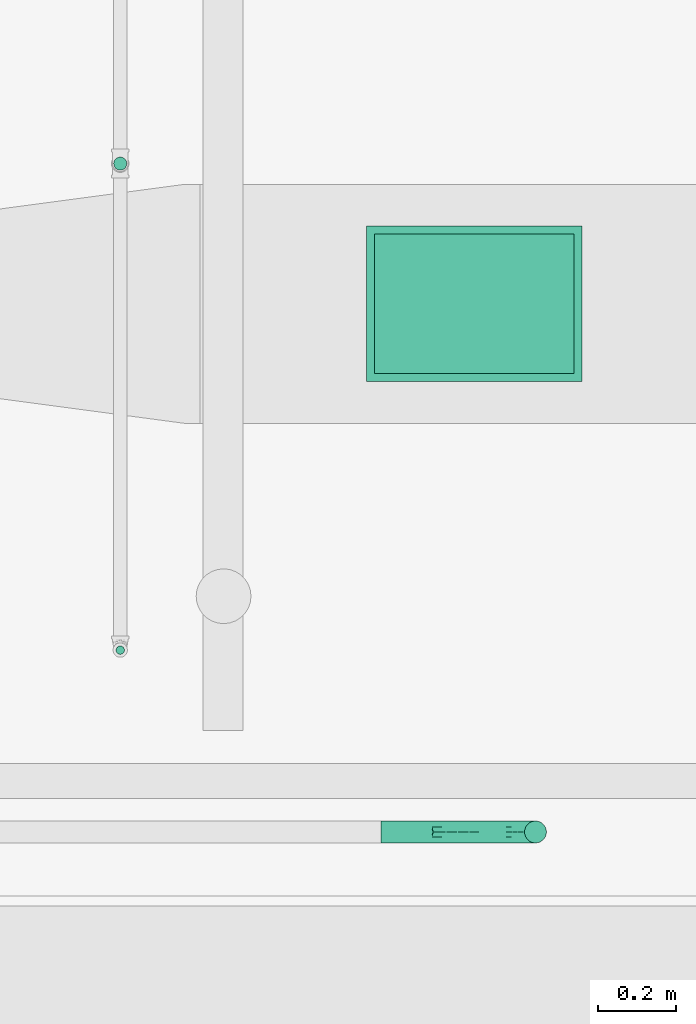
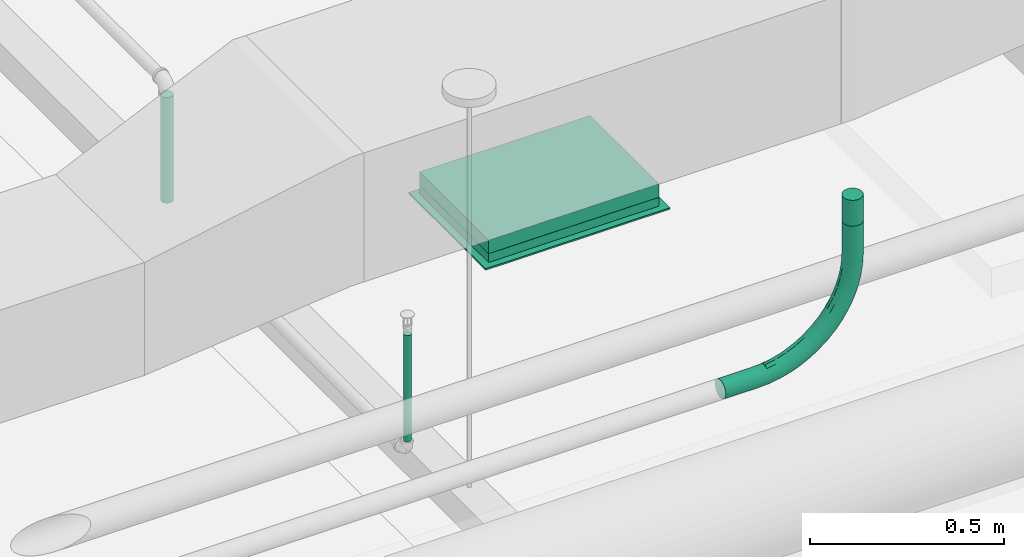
# One storey, part 41 of 108: 2 pipe segments, 1 air terminal, 1 cable carrier fitting, 1 cable carrier segment, 1 duct segment.
"""IFC4 building model written with IfcOpenShell, lengths in feet."""

from ifc_helpers import new_model, entity, si_unit, converted_unit, derived_unit, direction, frame, frame_2d, origin, origin_2d_with_axis, place, context, subcontext, project, spatial, rectangle, circle, extrude, source, transform, mapped, type_object, type_shapes, element, save


model = new_model("IFC4")

# Units and contexts
model_context = context("Model", 3, precision=0.0001, world=origin(), true_north=direction((6.12303176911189e-17, 1.0)))
body_context = subcontext(model_context, "Body", "Model", "MODEL_VIEW")
ifc_project = project(units=[converted_unit("LENGTHUNIT", "FOOT", entity("IfcRatioMeasure", 0.3048), si_unit("LENGTHUNIT", "METRE"), dimensions=[1, 0, 0, 0, 0, 0, 0]), converted_unit("AREAUNIT", "SQUARE FOOT", entity("IfcRatioMeasure", 0.09290304), si_unit("AREAUNIT", "SQUARE_METRE"), dimensions=[2, 0, 0, 0, 0, 0, 0]), converted_unit("VOLUMEUNIT", "CUBIC FOOT", entity("IfcRatioMeasure", 0.028316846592), si_unit("VOLUMEUNIT", "CUBIC_METRE"), dimensions=[3, 0, 0, 0, 0, 0, 0]), converted_unit("PLANEANGLEUNIT", "DEGREE", entity("IfcRatioMeasure", 0.0174532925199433), si_unit("PLANEANGLEUNIT", "RADIAN"), dimensions=[0, 0, 0, 0, 0, 0, 0]), si_unit("MASSUNIT", "GRAM", prefix="KILO"), derived_unit("MASSDENSITYUNIT", [(si_unit("MASSUNIT", "GRAM", prefix="KILO"), 1), (si_unit("LENGTHUNIT", "METRE"), -3)]), si_unit("TIMEUNIT", "SECOND"), si_unit("FREQUENCYUNIT", "HERTZ"), si_unit("THERMODYNAMICTEMPERATUREUNIT", "DEGREE_CELSIUS"), derived_unit("THERMALTRANSMITTANCEUNIT", [(si_unit("MASSUNIT", "GRAM", prefix="KILO"), 1), (si_unit("THERMODYNAMICTEMPERATUREUNIT", "KELVIN"), -1), (si_unit("TIMEUNIT", "SECOND"), -3)]), derived_unit("VOLUMETRICFLOWRATEUNIT", [(si_unit("LENGTHUNIT", "METRE"), 3), (si_unit("TIMEUNIT", "SECOND"), -1)]), si_unit("ELECTRICCURRENTUNIT", "AMPERE"), si_unit("ELECTRICVOLTAGEUNIT", "VOLT"), si_unit("POWERUNIT", "WATT"), si_unit("FORCEUNIT", "NEWTON"), si_unit("ILLUMINANCEUNIT", "LUX"), si_unit("LUMINOUSFLUXUNIT", "LUMEN"), si_unit("LUMINOUSINTENSITYUNIT", "CANDELA"), derived_unit("USERDEFINED", [(si_unit("MASSUNIT", "GRAM", prefix="KILO"), -1), (si_unit("LENGTHUNIT", "METRE"), -2), (si_unit("TIMEUNIT", "SECOND"), 3), (si_unit("LUMINOUSFLUXUNIT", "LUMEN"), 1)]), derived_unit("LINEARVELOCITYUNIT", [(si_unit("LENGTHUNIT", "METRE"), 1), (si_unit("TIMEUNIT", "SECOND"), -1)]), si_unit("PRESSUREUNIT", "PASCAL"), derived_unit("USERDEFINED", [(si_unit("LENGTHUNIT", "METRE"), -2), (si_unit("MASSUNIT", "GRAM", prefix="KILO"), 1), (si_unit("TIMEUNIT", "SECOND"), -2)])], contexts=[model_context])

# Site, building, storey
site_placement = place(None, origin())
site = spatial("IfcSite", under=ifc_project, at=site_placement, Name="Default", CompositionType="ELEMENT")
building_placement = place(site_placement, origin())
building = spatial("IfcBuilding", under=site, at=building_placement, CompositionType="ELEMENT")
storey_placement = place(building_placement, frame((0.0, 0.0, 168.0)))
storey = spatial("IfcBuildingStorey", under=building, at=storey_placement, Name="Level 15", CompositionType="ELEMENT", Elevation=168.0)

# Duct segment
duct_segment_type = type_object("IfcDuctSegmentType", Name="Rectangular Duct:Square Throat Elbows / S&D", PredefinedType="NOTDEFINED")
duct_segment_placement = place(storey_placement, frame((-23.6327399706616, -11.7654409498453, 8.75781249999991)))
element("IfcDuctSegment", 1, at=duct_segment_placement, inside=storey, type_object=duct_segment_type, Name="Rectangular Duct:Square Throat Elbows / S&D", ObjectType="Rectangular Duct:Square Throat Elbows / S&D", PredefinedType="NOTDEFINED", context=body_context, shape_type="SweptSolid", body=[
    extrude(rectangle(XDim=1.66666666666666, YDim=1.16666666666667, at=frame_2d((-1.77635683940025e-15, -8.88178419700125e-16), x_axis=(1.0, 0.0))), frame((0.833333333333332, 0.583333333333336, 0.0), z_axis=(0.0, 0.0, 1.0), x_axis=(-1.0, 0.0, 0.0)), (0.0, 0.0, 1.0), 0.138020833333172),
])

# Air terminal
air_terminal_type = type_object("IfcAirTerminalType", Name="20x14", PredefinedType="NOTDEFINED")
cartesian_point_1 = entity("IfcCartesianPoint", [0.901041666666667, -0.015625, 0.651041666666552])
vertex_point_1 = entity("IfcVertexPoint", cartesian_point_1)
cartesian_point_2 = entity("IfcCartesianPoint", [-0.901041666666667, -0.015625, 0.651041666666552])
vertex_point_2 = entity("IfcVertexPoint", cartesian_point_2)
ifc_direction_1 = entity("IfcDirection", [-1.0, 0.0, 0.0])
edge_curve_1 = entity("IfcEdgeCurve", vertex_point_1, vertex_point_2, entity("IfcTrimmedCurve", entity("IfcLine", cartesian_point_1, entity("IfcVector", ifc_direction_1, 1.0)), [cartesian_point_1], [cartesian_point_2], True, "CARTESIAN"), True)
cartesian_point_3 = entity("IfcCartesianPoint", [-0.901041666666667, -0.015625, -0.651041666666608])
vertex_point_3 = entity("IfcVertexPoint", cartesian_point_3)
ifc_direction_2 = entity("IfcDirection", [0.0, 0.0, -1.0])
edge_curve_2 = entity("IfcEdgeCurve", vertex_point_2, vertex_point_3, entity("IfcTrimmedCurve", entity("IfcLine", cartesian_point_2, entity("IfcVector", ifc_direction_2, 1.0)), [cartesian_point_2], [cartesian_point_3], True, "CARTESIAN"), True)
cartesian_point_4 = entity("IfcCartesianPoint", [0.901041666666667, -0.015625, -0.651041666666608])
vertex_point_4 = entity("IfcVertexPoint", cartesian_point_4)
ifc_direction_3 = entity("IfcDirection", [1.0, 0.0, 0.0])
edge_curve_3 = entity("IfcEdgeCurve", vertex_point_3, vertex_point_4, entity("IfcTrimmedCurve", entity("IfcLine", cartesian_point_3, entity("IfcVector", ifc_direction_3, 1.0)), [cartesian_point_3], [cartesian_point_4], True, "CARTESIAN"), True)
ifc_direction_4 = entity("IfcDirection", [0.0, 0.0, 1.0])
edge_curve_4 = entity("IfcEdgeCurve", vertex_point_4, vertex_point_1, entity("IfcTrimmedCurve", entity("IfcLine", cartesian_point_4, entity("IfcVector", ifc_direction_4, 1.0)), [cartesian_point_4], [cartesian_point_1], True, "CARTESIAN"), True)
ifc_direction_5 = entity("IfcDirection", [0.0, -1.0, 0.0])
cartesian_point_5 = entity("IfcCartesianPoint", [0.901041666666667, 0.0, 0.651041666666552])
vertex_point_5 = entity("IfcVertexPoint", cartesian_point_5)
cartesian_point_6 = entity("IfcCartesianPoint", [0.901041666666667, 0.0, -0.651041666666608])
vertex_point_6 = entity("IfcVertexPoint", cartesian_point_6)
edge_curve_5 = entity("IfcEdgeCurve", vertex_point_5, vertex_point_6, entity("IfcTrimmedCurve", entity("IfcLine", cartesian_point_5, entity("IfcVector", ifc_direction_2, 1.0)), [cartesian_point_5], [cartesian_point_6], True, "CARTESIAN"), True)
cartesian_point_7 = entity("IfcCartesianPoint", [-0.901041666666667, 0.0, -0.651041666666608])
vertex_point_7 = entity("IfcVertexPoint", cartesian_point_7)
edge_curve_6 = entity("IfcEdgeCurve", vertex_point_6, vertex_point_7, entity("IfcTrimmedCurve", entity("IfcLine", cartesian_point_6, entity("IfcVector", ifc_direction_1, 1.0)), [cartesian_point_6], [cartesian_point_7], True, "CARTESIAN"), True)
cartesian_point_8 = entity("IfcCartesianPoint", [-0.901041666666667, 0.0, 0.651041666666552])
vertex_point_8 = entity("IfcVertexPoint", cartesian_point_8)
edge_curve_7 = entity("IfcEdgeCurve", vertex_point_7, vertex_point_8, entity("IfcTrimmedCurve", entity("IfcLine", cartesian_point_7, entity("IfcVector", ifc_direction_4, 1.0)), [cartesian_point_7], [cartesian_point_8], True, "CARTESIAN"), True)
edge_curve_8 = entity("IfcEdgeCurve", vertex_point_8, vertex_point_5, entity("IfcTrimmedCurve", entity("IfcLine", cartesian_point_8, entity("IfcVector", ifc_direction_3, 1.0)), [cartesian_point_8], [cartesian_point_5], True, "CARTESIAN"), True)
cartesian_point_9 = entity("IfcCartesianPoint", [-0.833333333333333, 0.0, 0.583333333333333])
vertex_point_9 = entity("IfcVertexPoint", cartesian_point_9)
cartesian_point_10 = entity("IfcCartesianPoint", [-0.833333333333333, 0.0, -0.583333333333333])
vertex_point_10 = entity("IfcVertexPoint", cartesian_point_10)
edge_curve_9 = entity("IfcEdgeCurve", vertex_point_9, vertex_point_10, entity("IfcTrimmedCurve", entity("IfcLine", cartesian_point_9, entity("IfcVector", ifc_direction_2, 1.0)), [cartesian_point_9], [cartesian_point_10], True, "CARTESIAN"), True)
cartesian_point_11 = entity("IfcCartesianPoint", [0.833333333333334, 0.0, -0.583333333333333])
vertex_point_11 = entity("IfcVertexPoint", cartesian_point_11)
edge_curve_10 = entity("IfcEdgeCurve", vertex_point_10, vertex_point_11, entity("IfcTrimmedCurve", entity("IfcLine", cartesian_point_10, entity("IfcVector", ifc_direction_3, 1.0)), [cartesian_point_10], [cartesian_point_11], True, "CARTESIAN"), True)
cartesian_point_12 = entity("IfcCartesianPoint", [0.833333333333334, 0.0, 0.583333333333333])
vertex_point_12 = entity("IfcVertexPoint", cartesian_point_12)
edge_curve_11 = entity("IfcEdgeCurve", vertex_point_11, vertex_point_12, entity("IfcTrimmedCurve", entity("IfcLine", cartesian_point_11, entity("IfcVector", ifc_direction_4, 1.0)), [cartesian_point_11], [cartesian_point_12], True, "CARTESIAN"), True)
edge_curve_12 = entity("IfcEdgeCurve", vertex_point_12, vertex_point_9, entity("IfcTrimmedCurve", entity("IfcLine", cartesian_point_12, entity("IfcVector", ifc_direction_1, 1.0)), [cartesian_point_12], [cartesian_point_9], True, "CARTESIAN"), True)
ifc_direction_6 = entity("IfcDirection", [0.0, 1.0, 0.0])
edge_curve_13 = entity("IfcEdgeCurve", vertex_point_1, vertex_point_5, entity("IfcTrimmedCurve", entity("IfcLine", cartesian_point_1, entity("IfcVector", ifc_direction_6, 1.0)), [cartesian_point_1], [cartesian_point_5], True, "CARTESIAN"), True)
edge_curve_14 = entity("IfcEdgeCurve", vertex_point_8, vertex_point_2, entity("IfcTrimmedCurve", entity("IfcLine", cartesian_point_2, entity("IfcVector", ifc_direction_5, 1.0)), [cartesian_point_8], [cartesian_point_2], True, "CARTESIAN"), True)
edge_curve_15 = entity("IfcEdgeCurve", vertex_point_7, vertex_point_3, entity("IfcTrimmedCurve", entity("IfcLine", cartesian_point_3, entity("IfcVector", ifc_direction_5, 1.0)), [cartesian_point_7], [cartesian_point_3], True, "CARTESIAN"), True)
edge_curve_16 = entity("IfcEdgeCurve", vertex_point_6, vertex_point_4, entity("IfcTrimmedCurve", entity("IfcLine", cartesian_point_4, entity("IfcVector", ifc_direction_5, 1.0)), [cartesian_point_6], [cartesian_point_4], True, "CARTESIAN"), True)
cartesian_point_13 = entity("IfcCartesianPoint", [-0.833333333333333, 0.08984375, 0.583333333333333])
vertex_point_13 = entity("IfcVertexPoint", cartesian_point_13)
cartesian_point_14 = entity("IfcCartesianPoint", [0.833333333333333, 0.08984375, 0.583333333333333])
vertex_point_14 = entity("IfcVertexPoint", cartesian_point_14)
edge_curve_17 = entity("IfcEdgeCurve", vertex_point_13, vertex_point_14, entity("IfcTrimmedCurve", entity("IfcLine", cartesian_point_13, entity("IfcVector", ifc_direction_3, 1.0)), [cartesian_point_13], [cartesian_point_14], True, "CARTESIAN"), True)
cartesian_point_15 = entity("IfcCartesianPoint", [0.833333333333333, 0.08984375, -0.583333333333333])
vertex_point_15 = entity("IfcVertexPoint", cartesian_point_15)
edge_curve_18 = entity("IfcEdgeCurve", vertex_point_14, vertex_point_15, entity("IfcTrimmedCurve", entity("IfcLine", cartesian_point_14, entity("IfcVector", ifc_direction_2, 1.0)), [cartesian_point_14], [cartesian_point_15], True, "CARTESIAN"), True)
cartesian_point_16 = entity("IfcCartesianPoint", [-0.833333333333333, 0.08984375, -0.583333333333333])
vertex_point_16 = entity("IfcVertexPoint", cartesian_point_16)
edge_curve_19 = entity("IfcEdgeCurve", vertex_point_15, vertex_point_16, entity("IfcTrimmedCurve", entity("IfcLine", cartesian_point_15, entity("IfcVector", ifc_direction_1, 1.0)), [cartesian_point_15], [cartesian_point_16], True, "CARTESIAN"), True)
edge_curve_20 = entity("IfcEdgeCurve", vertex_point_16, vertex_point_13, entity("IfcTrimmedCurve", entity("IfcLine", cartesian_point_16, entity("IfcVector", ifc_direction_4, 1.0)), [cartesian_point_16], [cartesian_point_13], True, "CARTESIAN"), True)
cartesian_point_17 = entity("IfcCartesianPoint", [-0.8125, 0.08984375, 0.562500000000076])
vertex_point_17 = entity("IfcVertexPoint", cartesian_point_17)
cartesian_point_18 = entity("IfcCartesianPoint", [-0.8125, 0.08984375, -0.562500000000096])
vertex_point_18 = entity("IfcVertexPoint", cartesian_point_18)
edge_curve_21 = entity("IfcEdgeCurve", vertex_point_17, vertex_point_18, entity("IfcTrimmedCurve", entity("IfcLine", cartesian_point_17, entity("IfcVector", ifc_direction_2, 1.0)), [cartesian_point_17], [cartesian_point_18], True, "CARTESIAN"), True)
cartesian_point_19 = entity("IfcCartesianPoint", [0.8125, 0.08984375, -0.562500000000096])
vertex_point_19 = entity("IfcVertexPoint", cartesian_point_19)
edge_curve_22 = entity("IfcEdgeCurve", vertex_point_18, vertex_point_19, entity("IfcTrimmedCurve", entity("IfcLine", cartesian_point_18, entity("IfcVector", ifc_direction_3, 1.0)), [cartesian_point_18], [cartesian_point_19], True, "CARTESIAN"), True)
cartesian_point_20 = entity("IfcCartesianPoint", [0.8125, 0.08984375, 0.562500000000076])
vertex_point_20 = entity("IfcVertexPoint", cartesian_point_20)
edge_curve_23 = entity("IfcEdgeCurve", vertex_point_19, vertex_point_20, entity("IfcTrimmedCurve", entity("IfcLine", cartesian_point_19, entity("IfcVector", ifc_direction_4, 1.0)), [cartesian_point_19], [cartesian_point_20], True, "CARTESIAN"), True)
edge_curve_24 = entity("IfcEdgeCurve", vertex_point_20, vertex_point_17, entity("IfcTrimmedCurve", entity("IfcLine", cartesian_point_20, entity("IfcVector", ifc_direction_1, 1.0)), [cartesian_point_20], [cartesian_point_17], True, "CARTESIAN"), True)
edge_curve_25 = entity("IfcEdgeCurve", vertex_point_16, vertex_point_10, entity("IfcTrimmedCurve", entity("IfcLine", cartesian_point_10, entity("IfcVector", ifc_direction_5, 1.0)), [cartesian_point_16], [cartesian_point_10], True, "CARTESIAN"), True)
edge_curve_26 = entity("IfcEdgeCurve", vertex_point_9, vertex_point_13, entity("IfcTrimmedCurve", entity("IfcLine", cartesian_point_9, entity("IfcVector", ifc_direction_6, 1.0)), [cartesian_point_9], [cartesian_point_13], True, "CARTESIAN"), True)
edge_curve_27 = entity("IfcEdgeCurve", vertex_point_15, vertex_point_11, entity("IfcTrimmedCurve", entity("IfcLine", cartesian_point_11, entity("IfcVector", ifc_direction_5, 1.0)), [cartesian_point_15], [cartesian_point_11], True, "CARTESIAN"), True)
edge_curve_28 = entity("IfcEdgeCurve", vertex_point_14, vertex_point_12, entity("IfcTrimmedCurve", entity("IfcLine", cartesian_point_12, entity("IfcVector", ifc_direction_5, 1.0)), [cartesian_point_14], [cartesian_point_12], True, "CARTESIAN"), True)
cartesian_point_21 = entity("IfcCartesianPoint", [-0.8125, 0.0911458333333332, 0.562500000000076])
vertex_point_21 = entity("IfcVertexPoint", cartesian_point_21)
cartesian_point_22 = entity("IfcCartesianPoint", [0.8125, 0.0911458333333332, 0.562500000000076])
vertex_point_22 = entity("IfcVertexPoint", cartesian_point_22)
edge_curve_29 = entity("IfcEdgeCurve", vertex_point_21, vertex_point_22, entity("IfcTrimmedCurve", entity("IfcLine", cartesian_point_21, entity("IfcVector", ifc_direction_3, 1.0)), [cartesian_point_21], [cartesian_point_22], True, "CARTESIAN"), True)
cartesian_point_23 = entity("IfcCartesianPoint", [0.8125, 0.0911458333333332, -0.562500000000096])
vertex_point_23 = entity("IfcVertexPoint", cartesian_point_23)
edge_curve_30 = entity("IfcEdgeCurve", vertex_point_22, vertex_point_23, entity("IfcTrimmedCurve", entity("IfcLine", cartesian_point_22, entity("IfcVector", ifc_direction_2, 1.0)), [cartesian_point_22], [cartesian_point_23], True, "CARTESIAN"), True)
cartesian_point_24 = entity("IfcCartesianPoint", [-0.8125, 0.0911458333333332, -0.562500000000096])
vertex_point_24 = entity("IfcVertexPoint", cartesian_point_24)
edge_curve_31 = entity("IfcEdgeCurve", vertex_point_23, vertex_point_24, entity("IfcTrimmedCurve", entity("IfcLine", cartesian_point_23, entity("IfcVector", ifc_direction_1, 1.0)), [cartesian_point_23], [cartesian_point_24], True, "CARTESIAN"), True)
edge_curve_32 = entity("IfcEdgeCurve", vertex_point_24, vertex_point_21, entity("IfcTrimmedCurve", entity("IfcLine", cartesian_point_24, entity("IfcVector", ifc_direction_4, 1.0)), [cartesian_point_24], [cartesian_point_21], True, "CARTESIAN"), True)
edge_curve_33 = entity("IfcEdgeCurve", vertex_point_24, vertex_point_18, entity("IfcTrimmedCurve", entity("IfcLine", cartesian_point_18, entity("IfcVector", ifc_direction_5, 1.0)), [cartesian_point_24], [cartesian_point_18], True, "CARTESIAN"), True)
edge_curve_34 = entity("IfcEdgeCurve", vertex_point_17, vertex_point_21, entity("IfcTrimmedCurve", entity("IfcLine", cartesian_point_17, entity("IfcVector", ifc_direction_6, 1.0)), [cartesian_point_17], [cartesian_point_21], True, "CARTESIAN"), True)
edge_curve_35 = entity("IfcEdgeCurve", vertex_point_23, vertex_point_19, entity("IfcTrimmedCurve", entity("IfcLine", cartesian_point_19, entity("IfcVector", ifc_direction_5, 1.0)), [cartesian_point_23], [cartesian_point_19], True, "CARTESIAN"), True)
edge_curve_36 = entity("IfcEdgeCurve", vertex_point_22, vertex_point_20, entity("IfcTrimmedCurve", entity("IfcLine", cartesian_point_20, entity("IfcVector", ifc_direction_5, 1.0)), [cartesian_point_22], [cartesian_point_20], True, "CARTESIAN"), True)
shared_shape_1 = source(origin(), body_context, "Body", "AdvancedBrep", [
    entity("IfcAdvancedBrep", entity("IfcClosedShell", [entity("IfcAdvancedFace", [entity("IfcFaceOuterBound", entity("IfcEdgeLoop", [entity("IfcOrientedEdge", None, None, edge_curve_1, True), entity("IfcOrientedEdge", None, None, edge_curve_2, True), entity("IfcOrientedEdge", None, None, edge_curve_3, True), entity("IfcOrientedEdge", None, None, edge_curve_4, True)]), True)], entity("IfcPlane", entity("IfcAxis2Placement3D", cartesian_point_2, ifc_direction_5, ifc_direction_1)), True), entity("IfcAdvancedFace", [entity("IfcFaceOuterBound", entity("IfcEdgeLoop", [entity("IfcOrientedEdge", None, None, edge_curve_5, True), entity("IfcOrientedEdge", None, None, edge_curve_6, True), entity("IfcOrientedEdge", None, None, edge_curve_7, True), entity("IfcOrientedEdge", None, None, edge_curve_8, True)]), True), entity("IfcFaceBound", entity("IfcEdgeLoop", [entity("IfcOrientedEdge", None, None, edge_curve_9, True), entity("IfcOrientedEdge", None, None, edge_curve_10, True), entity("IfcOrientedEdge", None, None, edge_curve_11, True), entity("IfcOrientedEdge", None, None, edge_curve_12, True)]), False)], entity("IfcPlane", entity("IfcAxis2Placement3D", cartesian_point_8, ifc_direction_6, ifc_direction_3)), True), entity("IfcAdvancedFace", [entity("IfcFaceOuterBound", entity("IfcEdgeLoop", [entity("IfcOrientedEdge", None, None, edge_curve_1, False), entity("IfcOrientedEdge", None, None, edge_curve_13, True), entity("IfcOrientedEdge", None, None, edge_curve_8, False), entity("IfcOrientedEdge", None, None, edge_curve_14, True)]), True)], entity("IfcPlane", entity("IfcAxis2Placement3D", cartesian_point_1, ifc_direction_4, ifc_direction_6)), True), entity("IfcAdvancedFace", [entity("IfcFaceOuterBound", entity("IfcEdgeLoop", [entity("IfcOrientedEdge", None, None, edge_curve_2, False), entity("IfcOrientedEdge", None, None, edge_curve_14, False), entity("IfcOrientedEdge", None, None, edge_curve_7, False), entity("IfcOrientedEdge", None, None, edge_curve_15, True)]), True)], entity("IfcPlane", entity("IfcAxis2Placement3D", cartesian_point_2, ifc_direction_1, ifc_direction_6)), True), entity("IfcAdvancedFace", [entity("IfcFaceOuterBound", entity("IfcEdgeLoop", [entity("IfcOrientedEdge", None, None, edge_curve_3, False), entity("IfcOrientedEdge", None, None, edge_curve_15, False), entity("IfcOrientedEdge", None, None, edge_curve_6, False), entity("IfcOrientedEdge", None, None, edge_curve_16, True)]), True)], entity("IfcPlane", entity("IfcAxis2Placement3D", cartesian_point_3, ifc_direction_2, ifc_direction_6)), True), entity("IfcAdvancedFace", [entity("IfcFaceOuterBound", entity("IfcEdgeLoop", [entity("IfcOrientedEdge", None, None, edge_curve_4, False), entity("IfcOrientedEdge", None, None, edge_curve_16, False), entity("IfcOrientedEdge", None, None, edge_curve_5, False), entity("IfcOrientedEdge", None, None, edge_curve_13, False)]), True)], entity("IfcPlane", entity("IfcAxis2Placement3D", cartesian_point_4, ifc_direction_3, ifc_direction_6)), True), entity("IfcAdvancedFace", [entity("IfcFaceOuterBound", entity("IfcEdgeLoop", [entity("IfcOrientedEdge", None, None, edge_curve_17, True), entity("IfcOrientedEdge", None, None, edge_curve_18, True), entity("IfcOrientedEdge", None, None, edge_curve_19, True), entity("IfcOrientedEdge", None, None, edge_curve_20, True)]), True), entity("IfcFaceBound", entity("IfcEdgeLoop", [entity("IfcOrientedEdge", None, None, edge_curve_21, True), entity("IfcOrientedEdge", None, None, edge_curve_22, True), entity("IfcOrientedEdge", None, None, edge_curve_23, True), entity("IfcOrientedEdge", None, None, edge_curve_24, True)]), False)], entity("IfcPlane", entity("IfcAxis2Placement3D", cartesian_point_13, ifc_direction_6, ifc_direction_4)), True), entity("IfcAdvancedFace", [entity("IfcFaceOuterBound", entity("IfcEdgeLoop", [entity("IfcOrientedEdge", None, None, edge_curve_20, False), entity("IfcOrientedEdge", None, None, edge_curve_25, True), entity("IfcOrientedEdge", None, None, edge_curve_9, False), entity("IfcOrientedEdge", None, None, edge_curve_26, True)]), True)], entity("IfcPlane", entity("IfcAxis2Placement3D", cartesian_point_9, ifc_direction_1, ifc_direction_6)), True), entity("IfcAdvancedFace", [entity("IfcFaceOuterBound", entity("IfcEdgeLoop", [entity("IfcOrientedEdge", None, None, edge_curve_19, False), entity("IfcOrientedEdge", None, None, edge_curve_27, True), entity("IfcOrientedEdge", None, None, edge_curve_10, False), entity("IfcOrientedEdge", None, None, edge_curve_25, False)]), True)], entity("IfcPlane", entity("IfcAxis2Placement3D", cartesian_point_10, ifc_direction_2, ifc_direction_6)), True), entity("IfcAdvancedFace", [entity("IfcFaceOuterBound", entity("IfcEdgeLoop", [entity("IfcOrientedEdge", None, None, edge_curve_18, False), entity("IfcOrientedEdge", None, None, edge_curve_28, True), entity("IfcOrientedEdge", None, None, edge_curve_11, False), entity("IfcOrientedEdge", None, None, edge_curve_27, False)]), True)], entity("IfcPlane", entity("IfcAxis2Placement3D", cartesian_point_11, ifc_direction_3, ifc_direction_6)), True), entity("IfcAdvancedFace", [entity("IfcFaceOuterBound", entity("IfcEdgeLoop", [entity("IfcOrientedEdge", None, None, edge_curve_17, False), entity("IfcOrientedEdge", None, None, edge_curve_26, False), entity("IfcOrientedEdge", None, None, edge_curve_12, False), entity("IfcOrientedEdge", None, None, edge_curve_28, False)]), True)], entity("IfcPlane", entity("IfcAxis2Placement3D", cartesian_point_12, ifc_direction_4, ifc_direction_6)), True), entity("IfcAdvancedFace", [entity("IfcFaceOuterBound", entity("IfcEdgeLoop", [entity("IfcOrientedEdge", None, None, edge_curve_29, True), entity("IfcOrientedEdge", None, None, edge_curve_30, True), entity("IfcOrientedEdge", None, None, edge_curve_31, True), entity("IfcOrientedEdge", None, None, edge_curve_32, True)]), True)], entity("IfcPlane", entity("IfcAxis2Placement3D", cartesian_point_21, ifc_direction_6, ifc_direction_4)), True), entity("IfcAdvancedFace", [entity("IfcFaceOuterBound", entity("IfcEdgeLoop", [entity("IfcOrientedEdge", None, None, edge_curve_32, False), entity("IfcOrientedEdge", None, None, edge_curve_33, True), entity("IfcOrientedEdge", None, None, edge_curve_21, False), entity("IfcOrientedEdge", None, None, edge_curve_34, True)]), True)], entity("IfcPlane", entity("IfcAxis2Placement3D", cartesian_point_17, ifc_direction_1, ifc_direction_6)), True), entity("IfcAdvancedFace", [entity("IfcFaceOuterBound", entity("IfcEdgeLoop", [entity("IfcOrientedEdge", None, None, edge_curve_31, False), entity("IfcOrientedEdge", None, None, edge_curve_35, True), entity("IfcOrientedEdge", None, None, edge_curve_22, False), entity("IfcOrientedEdge", None, None, edge_curve_33, False)]), True)], entity("IfcPlane", entity("IfcAxis2Placement3D", cartesian_point_18, ifc_direction_2, ifc_direction_6)), True), entity("IfcAdvancedFace", [entity("IfcFaceOuterBound", entity("IfcEdgeLoop", [entity("IfcOrientedEdge", None, None, edge_curve_30, False), entity("IfcOrientedEdge", None, None, edge_curve_36, True), entity("IfcOrientedEdge", None, None, edge_curve_23, False), entity("IfcOrientedEdge", None, None, edge_curve_35, False)]), True)], entity("IfcPlane", entity("IfcAxis2Placement3D", cartesian_point_19, ifc_direction_3, ifc_direction_6)), True), entity("IfcAdvancedFace", [entity("IfcFaceOuterBound", entity("IfcEdgeLoop", [entity("IfcOrientedEdge", None, None, edge_curve_29, False), entity("IfcOrientedEdge", None, None, edge_curve_34, False), entity("IfcOrientedEdge", None, None, edge_curve_24, False), entity("IfcOrientedEdge", None, None, edge_curve_36, False)]), True)], entity("IfcPlane", entity("IfcAxis2Placement3D", cartesian_point_20, ifc_direction_4, ifc_direction_6)), True)])),
])
type_shapes(air_terminal_type, [shared_shape_1])
air_terminal_placement = place(storey_placement, frame((-22.7994066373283, -11.1821076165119, 8.66666666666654), z_axis=(0.0, -1.0, 0.0), x_axis=(1.0, 0.0, 0.0)))
element("IfcAirTerminal", 2, at=air_terminal_placement, inside=storey, type_object=air_terminal_type, Name="Supply Diffuser - Sidewall:20x14", ObjectType="Supply Diffuser - Sidewall:20x14", PredefinedType="NOTDEFINED", context=body_context, shape_type="MappedRepresentation", body=[
    mapped(shared_shape_1, transform((0.0, 0.0, 0.0), scale=1.0)),
])

# Pipe segments
pipe_segment_type = type_object("IfcPipeSegmentType", Name="Pipe Types:Fire Prot Sched 10 Main", PredefinedType="NOTDEFINED")
pipe_segment_1_placement = place(storey_placement, frame((-25.8009559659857, -14.1180616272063, 8.98259104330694)))
element("IfcPipeSegment", 3, at=pipe_segment_1_placement, inside=storey, type_object=pipe_segment_type, Name="Pipe Types:Fire Prot Sched 10 Main", ObjectType="Pipe Types:Fire Prot Sched 10 Main", PredefinedType="NOTDEFINED", context=body_context, shape_type="SweptSolid", body=[
    extrude(circle(Radius=0.035, at=origin_2d_with_axis()), frame((0.0402338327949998, 0.0402338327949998, 0.0)), (0.0, 0.0, 1.0), 1.10074229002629),
])
pipe_segment_2_placement = place(storey_placement, frame((-25.8207476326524, -10.0697758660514, 8.99621093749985)))
element("IfcPipeSegment", 4, at=pipe_segment_2_placement, inside=storey, type_object=pipe_segment_type, Name="Pipe Types:Fire Prot Sched 10 Main", ObjectType="Pipe Types:Fire Prot Sched 10 Main", PredefinedType="NOTDEFINED", context=body_context, shape_type="SweptSolid", body=[
    extrude(circle(Radius=0.0547916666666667, at=origin_2d_with_axis()), frame((0.0600254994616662, 0.0600254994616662, 0.0), z_axis=(0.0, 0.0, 1.0), x_axis=(-1.0, 0.0, 0.0)), (0.0, 0.0, 1.0), 1.09091145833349),
])

# Cable carrier segment
cable_carrier_segment_type = type_object("IfcCableCarrierSegmentType", Name="Conduit with Fittings:Conduit", PredefinedType="NOTDEFINED")
cable_carrier_segment_placement = place(storey_placement, frame((-22.3850490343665, -15.695495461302, 10.9583333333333)))
element("IfcCableCarrierSegment", 5, at=cable_carrier_segment_placement, inside=storey, type_object=cable_carrier_segment_type, Name="Conduit with Fittings:Conduit", ObjectType="Conduit with Fittings:Conduit", PredefinedType="NOTDEFINED", context=body_context, shape_type="SweptSolid", body=[
    extrude(circle(Radius=0.0915416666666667, at=frame_2d((-1.4210854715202e-14, -1.77635683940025e-15), x_axis=(1.0, 0.0))), frame((0.0967754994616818, 0.0967754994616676, 0.0)), (0.0, 0.0, 1.0), 0.267875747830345),
])

# Cable carrier fitting
cable_carrier_fitting_type = type_object("IfcCableCarrierFittingType", Name="Standard", PredefinedType="NOTDEFINED")
cartesian_point_25 = entity("IfcCartesianPoint", [-1.29166666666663, -0.0915416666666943, 0.0])
vertex_point_25 = entity("IfcVertexPoint", cartesian_point_25)
cartesian_point_26 = entity("IfcCartesianPoint", [-1.29166666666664, 0.091541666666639, 0.0])
vertex_point_26 = entity("IfcVertexPoint", cartesian_point_26)
cartesian_point_27 = entity("IfcCartesianPoint", [-1.29166666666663, 0.0, 0.0])
ifc_direction_7 = entity("IfcDirection", [-1.0, 0.0, 0.0])
ifc_direction_8 = entity("IfcDirection", [0.0, 1.0, 0.0])
edge_curve_37 = entity("IfcEdgeCurve", vertex_point_25, vertex_point_26, entity("IfcTrimmedCurve", entity("IfcCircle", entity("IfcAxis2Placement3D", cartesian_point_27, ifc_direction_7, ifc_direction_8), 0.0915416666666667), [cartesian_point_25], [cartesian_point_26], True, "CARTESIAN"), True)
edge_curve_38 = entity("IfcEdgeCurve", vertex_point_26, vertex_point_25, entity("IfcTrimmedCurve", entity("IfcCircle", entity("IfcAxis2Placement3D", cartesian_point_27, ifc_direction_7, ifc_direction_8), 0.0915416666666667), [cartesian_point_26], [cartesian_point_25], True, "CARTESIAN"), True)
ifc_direction_9 = entity("IfcDirection", [0.0, 0.0, 1.0])
cartesian_point_28 = entity("IfcCartesianPoint", [-0.958333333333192, -0.0915416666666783, 0.0])
vertex_point_27 = entity("IfcVertexPoint", cartesian_point_28)
edge_curve_39 = entity("IfcEdgeCurve", vertex_point_25, vertex_point_27, entity("IfcTrimmedCurve", entity("IfcLine", cartesian_point_25, entity("IfcVector", entity("IfcDirection", [1.0, 0.0, 0.0]), 1.0)), [cartesian_point_25], [cartesian_point_28], True, "CARTESIAN"), True)
cartesian_point_29 = entity("IfcCartesianPoint", [-0.958333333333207, 0.0915416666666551, 0.0])
vertex_point_28 = entity("IfcVertexPoint", cartesian_point_29)
cartesian_point_30 = entity("IfcCartesianPoint", [-0.958333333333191, 0.0, 0.0])
edge_curve_40 = entity("IfcEdgeCurve", vertex_point_27, vertex_point_28, entity("IfcTrimmedCurve", entity("IfcCircle", entity("IfcAxis2Placement3D", cartesian_point_30, ifc_direction_7, ifc_direction_8), 0.0915416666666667), [cartesian_point_28], [cartesian_point_29], True, "CARTESIAN"), True)
edge_curve_41 = entity("IfcEdgeCurve", vertex_point_28, vertex_point_26, entity("IfcTrimmedCurve", entity("IfcLine", cartesian_point_26, entity("IfcVector", ifc_direction_7, 1.0)), [cartesian_point_29], [cartesian_point_26], True, "CARTESIAN"), True)
edge_curve_42 = entity("IfcEdgeCurve", vertex_point_28, vertex_point_27, entity("IfcTrimmedCurve", entity("IfcCircle", entity("IfcAxis2Placement3D", cartesian_point_30, ifc_direction_7, ifc_direction_8), 0.0915416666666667), [cartesian_point_29], [cartesian_point_28], True, "CARTESIAN"), True)
cartesian_point_31 = entity("IfcCartesianPoint", [-0.0915416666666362, 0.958333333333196, 0.0])
vertex_point_29 = entity("IfcVertexPoint", cartesian_point_31)
cartesian_point_32 = entity("IfcCartesianPoint", [-0.958333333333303, 0.958333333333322, 0.0])
ifc_direction_10 = entity("IfcDirection", [0.0, -1.0, 0.0])
edge_curve_43 = entity("IfcEdgeCurve", vertex_point_29, vertex_point_28, entity("IfcTrimmedCurve", entity("IfcCircle", entity("IfcAxis2Placement3D", cartesian_point_32, entity("IfcDirection", [0.0, 0.0, -1.0]), ifc_direction_10), 0.866791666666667), [cartesian_point_31], [cartesian_point_29], True, "CARTESIAN"), True)
cartesian_point_33 = entity("IfcCartesianPoint", [0.0915416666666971, 0.958333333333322, 0.0])
vertex_point_30 = entity("IfcVertexPoint", cartesian_point_33)
edge_curve_44 = entity("IfcEdgeCurve", vertex_point_27, vertex_point_30, entity("IfcTrimmedCurve", entity("IfcCircle", entity("IfcAxis2Placement3D", cartesian_point_32, ifc_direction_9, ifc_direction_10), 1.049875), [cartesian_point_28], [cartesian_point_33], True, "CARTESIAN"), True)
cartesian_point_34 = entity("IfcCartesianPoint", [0.0, 0.958333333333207, 0.0])
edge_curve_45 = entity("IfcEdgeCurve", vertex_point_30, vertex_point_29, entity("IfcTrimmedCurve", entity("IfcCircle", entity("IfcAxis2Placement3D", cartesian_point_34, ifc_direction_10, ifc_direction_7), 0.0915416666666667), [cartesian_point_33], [cartesian_point_31], True, "CARTESIAN"), True)
edge_curve_46 = entity("IfcEdgeCurve", vertex_point_29, vertex_point_30, entity("IfcTrimmedCurve", entity("IfcCircle", entity("IfcAxis2Placement3D", cartesian_point_34, ifc_direction_10, ifc_direction_7), 0.0915416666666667), [cartesian_point_31], [cartesian_point_33], True, "CARTESIAN"), True)
cartesian_point_35 = entity("IfcCartesianPoint", [0.0915416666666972, 1.29166666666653, 0.0])
vertex_point_31 = entity("IfcVertexPoint", cartesian_point_35)
cartesian_point_36 = entity("IfcCartesianPoint", [-0.0915416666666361, 1.29166666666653, 0.0])
vertex_point_32 = entity("IfcVertexPoint", cartesian_point_36)
cartesian_point_37 = entity("IfcCartesianPoint", [0.0, 1.29166666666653, 0.0])
edge_curve_47 = entity("IfcEdgeCurve", vertex_point_31, vertex_point_32, entity("IfcTrimmedCurve", entity("IfcCircle", entity("IfcAxis2Placement3D", cartesian_point_37, ifc_direction_8, ifc_direction_7), 0.0915416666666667), [cartesian_point_35], [cartesian_point_36], True, "CARTESIAN"), True)
edge_curve_48 = entity("IfcEdgeCurve", vertex_point_32, vertex_point_31, entity("IfcTrimmedCurve", entity("IfcCircle", entity("IfcAxis2Placement3D", cartesian_point_37, ifc_direction_8, ifc_direction_7), 0.0915416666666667), [cartesian_point_36], [cartesian_point_35], True, "CARTESIAN"), True)
edge_curve_49 = entity("IfcEdgeCurve", vertex_point_30, vertex_point_31, entity("IfcTrimmedCurve", entity("IfcLine", cartesian_point_33, entity("IfcVector", ifc_direction_8, 1.0)), [cartesian_point_33], [cartesian_point_35], True, "CARTESIAN"), True)
edge_curve_50 = entity("IfcEdgeCurve", vertex_point_32, vertex_point_29, entity("IfcTrimmedCurve", entity("IfcLine", cartesian_point_31, entity("IfcVector", ifc_direction_10, 1.0)), [cartesian_point_36], [cartesian_point_31], True, "CARTESIAN"), True)
shared_shape_2 = source(origin(), body_context, "Body", "AdvancedBrep", [
    entity("IfcAdvancedBrep", entity("IfcClosedShell", [entity("IfcAdvancedFace", [entity("IfcFaceOuterBound", entity("IfcEdgeLoop", [entity("IfcOrientedEdge", None, None, edge_curve_37, True), entity("IfcOrientedEdge", None, None, edge_curve_38, True)]), True)], entity("IfcPlane", entity("IfcAxis2Placement3D", cartesian_point_27, ifc_direction_7, ifc_direction_9)), True), entity("IfcAdvancedFace", [entity("IfcFaceOuterBound", entity("IfcEdgeLoop", [entity("IfcOrientedEdge", None, None, edge_curve_37, False), entity("IfcOrientedEdge", None, None, edge_curve_39, True), entity("IfcOrientedEdge", None, None, edge_curve_40, True), entity("IfcOrientedEdge", None, None, edge_curve_41, True)]), True)], entity("IfcCylindricalSurface", entity("IfcAxis2Placement3D", cartesian_point_27, ifc_direction_7, ifc_direction_8), 0.0915416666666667), True), entity("IfcAdvancedFace", [entity("IfcFaceOuterBound", entity("IfcEdgeLoop", [entity("IfcOrientedEdge", None, None, edge_curve_38, False), entity("IfcOrientedEdge", None, None, edge_curve_41, False), entity("IfcOrientedEdge", None, None, edge_curve_42, True), entity("IfcOrientedEdge", None, None, edge_curve_39, False)]), True)], entity("IfcCylindricalSurface", entity("IfcAxis2Placement3D", cartesian_point_27, ifc_direction_7, ifc_direction_8), 0.0915416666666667), True), entity("IfcAdvancedFace", [entity("IfcFaceOuterBound", entity("IfcEdgeLoop", [entity("IfcOrientedEdge", None, None, edge_curve_43, True), entity("IfcOrientedEdge", None, None, edge_curve_40, False), entity("IfcOrientedEdge", None, None, edge_curve_44, True), entity("IfcOrientedEdge", None, None, edge_curve_45, True)]), True)], entity("IfcSurfaceOfRevolution", entity("IfcArbitraryOpenProfileDef", "CURVE", None, entity("IfcTrimmedCurve", entity("IfcTrimmedCurve", entity("IfcCircle", entity("IfcAxis2Placement3D", cartesian_point_34, ifc_direction_10, ifc_direction_7), 0.0915416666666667), [cartesian_point_33], [cartesian_point_31], True, "CARTESIAN"), [cartesian_point_33], [cartesian_point_31], True, "CARTESIAN")), None, entity("IfcAxis1Placement", cartesian_point_32, ifc_direction_9)), True), entity("IfcAdvancedFace", [entity("IfcFaceOuterBound", entity("IfcEdgeLoop", [entity("IfcOrientedEdge", None, None, edge_curve_44, False), entity("IfcOrientedEdge", None, None, edge_curve_42, False), entity("IfcOrientedEdge", None, None, edge_curve_43, False), entity("IfcOrientedEdge", None, None, edge_curve_46, True)]), True)], entity("IfcSurfaceOfRevolution", entity("IfcArbitraryOpenProfileDef", "CURVE", None, entity("IfcTrimmedCurve", entity("IfcTrimmedCurve", entity("IfcCircle", entity("IfcAxis2Placement3D", cartesian_point_34, ifc_direction_10, ifc_direction_7), 0.0915416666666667), [cartesian_point_31], [cartesian_point_33], True, "CARTESIAN"), [cartesian_point_31], [cartesian_point_33], True, "CARTESIAN")), None, entity("IfcAxis1Placement", cartesian_point_32, ifc_direction_9)), True), entity("IfcAdvancedFace", [entity("IfcFaceOuterBound", entity("IfcEdgeLoop", [entity("IfcOrientedEdge", None, None, edge_curve_47, True), entity("IfcOrientedEdge", None, None, edge_curve_48, True)]), True)], entity("IfcPlane", entity("IfcAxis2Placement3D", cartesian_point_37, ifc_direction_8, ifc_direction_9)), True), entity("IfcAdvancedFace", [entity("IfcFaceOuterBound", entity("IfcEdgeLoop", [entity("IfcOrientedEdge", None, None, edge_curve_45, False), entity("IfcOrientedEdge", None, None, edge_curve_49, True), entity("IfcOrientedEdge", None, None, edge_curve_48, False), entity("IfcOrientedEdge", None, None, edge_curve_50, True)]), True)], entity("IfcCylindricalSurface", entity("IfcAxis2Placement3D", cartesian_point_34, ifc_direction_10, ifc_direction_7), 0.0915416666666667), True), entity("IfcAdvancedFace", [entity("IfcFaceOuterBound", entity("IfcEdgeLoop", [entity("IfcOrientedEdge", None, None, edge_curve_46, False), entity("IfcOrientedEdge", None, None, edge_curve_50, False), entity("IfcOrientedEdge", None, None, edge_curve_47, False), entity("IfcOrientedEdge", None, None, edge_curve_49, False)]), True)], entity("IfcCylindricalSurface", entity("IfcAxis2Placement3D", cartesian_point_34, ifc_direction_10, ifc_direction_7), 0.0915416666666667), True)])),
])
type_shapes(cable_carrier_fitting_type, [shared_shape_2])
cable_carrier_fitting_placement = place(storey_placement, frame((-22.2882735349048, -15.5987199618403, 9.66666666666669), z_axis=(0.0, 1.0, 0.0), x_axis=(0.0, 0.0, -1.0)))
element("IfcCableCarrierFitting", 6, at=cable_carrier_fitting_placement, inside=storey, type_object=cable_carrier_fitting_type, Name="Conduit Elbow - Steel:Standard", ObjectType="Conduit Elbow - Steel:Standard", PredefinedType="NOTDEFINED", context=body_context, shape_type="MappedRepresentation", body=[
    mapped(shared_shape_2, transform((0.0, 0.0, 0.0), scale=1.0)),
])

save(model, "model.ifc")
